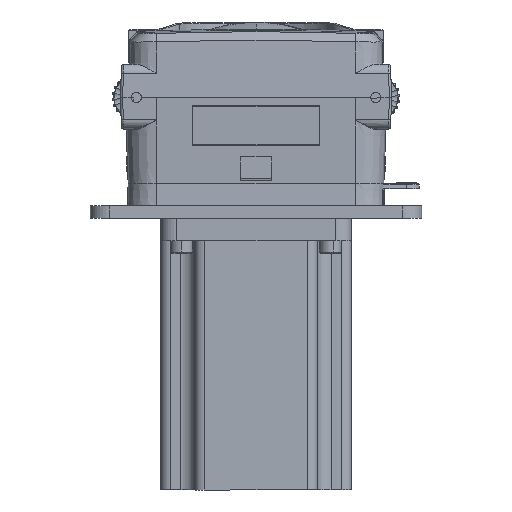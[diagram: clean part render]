
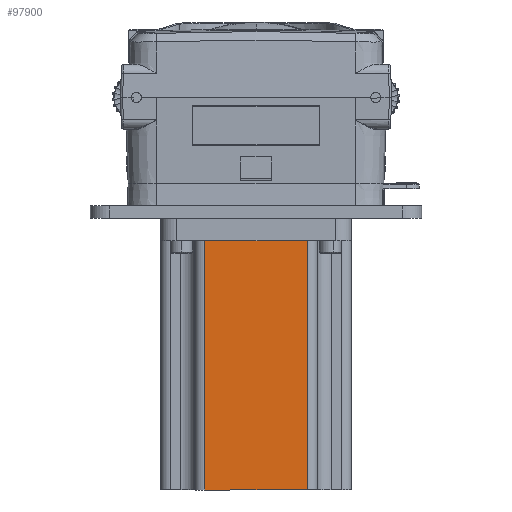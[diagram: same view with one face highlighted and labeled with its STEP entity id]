
A CAD part, front view. The second image highlights one B-rep face of the part: STEP entity #97900.
In plain terms, the highlighted planar face has unit normal (0, -1, 0).
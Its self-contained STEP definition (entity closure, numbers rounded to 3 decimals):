
#4781 = PLANE ( 'NONE',  #40511 ) ;
#5546 = ORIENTED_EDGE ( 'NONE', *, *, #64328, .F. ) ;
#14847 = VERTEX_POINT ( 'NONE', #35310 ) ;
#18533 = VERTEX_POINT ( 'NONE', #24456 ) ;
#20458 = CARTESIAN_POINT ( 'NONE',  ( -30.25, -30.25, -11. ) ) ;
#24456 = CARTESIAN_POINT ( 'NONE',  ( -16.3, -30.25, -90. ) ) ;
#26833 = DIRECTION ( 'NONE',  ( 0., 0., -1. ) ) ;
#31830 = LINE ( 'NONE', #20458, #138812 ) ;
#35310 = CARTESIAN_POINT ( 'NONE',  ( 16.3, -30.25, -90. ) ) ;
#37753 = EDGE_CURVE ( 'NONE', #18533, #14847, #56717, .T. ) ;
#38185 = DIRECTION ( 'NONE',  ( 0., -1., 0. ) ) ;
#40511 = AXIS2_PLACEMENT_3D ( 'NONE', #81008, #38185, #67511 ) ;
#44118 = ORIENTED_EDGE ( 'NONE', *, *, #97963, .F. ) ;
#48144 = CARTESIAN_POINT ( 'NONE',  ( 16.3, -30.25, -228.182 ) ) ;
#49071 = VECTOR ( 'NONE', #137060, 1000. ) ;
#51671 = CARTESIAN_POINT ( 'NONE',  ( -16.3, -30.25, -90. ) ) ;
#55176 = CARTESIAN_POINT ( 'NONE',  ( -16.3, -30.25, -11. ) ) ;
#55753 = VERTEX_POINT ( 'NONE', #77903 ) ;
#56030 = DIRECTION ( 'NONE',  ( 1., 0., 0. ) ) ;
#56717 = LINE ( 'NONE', #79587, #136966 ) ;
#58839 = VERTEX_POINT ( 'NONE', #55176 ) ;
#64328 = EDGE_CURVE ( 'NONE', #58839, #55753, #31830, .T. ) ;
#65745 = ORIENTED_EDGE ( 'NONE', *, *, #37753, .T. ) ;
#67511 = DIRECTION ( 'NONE',  ( 0., 0., -1. ) ) ;
#67925 = VECTOR ( 'NONE', #26833, 1000. ) ;
#77903 = CARTESIAN_POINT ( 'NONE',  ( 16.3, -30.25, -11. ) ) ;
#79587 = CARTESIAN_POINT ( 'NONE',  ( 0., -30.25, -90. ) ) ;
#81008 = CARTESIAN_POINT ( 'NONE',  ( -30.25, -30.25, -90. ) ) ;
#92352 = LINE ( 'NONE', #48144, #67925 ) ;
#95139 = LINE ( 'NONE', #51671, #49071 ) ;
#97900 = ADVANCED_FACE ( 'NONE', ( #113706 ), #4781, .T. ) ;
#97963 = EDGE_CURVE ( 'NONE', #55753, #14847, #92352, .T. ) ;
#111490 = EDGE_CURVE ( 'NONE', #58839, #18533, #95139, .T. ) ;
#113706 = FACE_OUTER_BOUND ( 'NONE', #117554, .T. ) ;
#117554 = EDGE_LOOP ( 'NONE', ( #5546, #139051, #65745, #44118 ) ) ;
#136966 = VECTOR ( 'NONE', #56030, 1000. ) ;
#137060 = DIRECTION ( 'NONE',  ( 0., 0., -1. ) ) ;
#138812 = VECTOR ( 'NONE', #139985, 1000. ) ;
#139051 = ORIENTED_EDGE ( 'NONE', *, *, #111490, .T. ) ;
#139985 = DIRECTION ( 'NONE',  ( 1., 0., 0. ) ) ;
